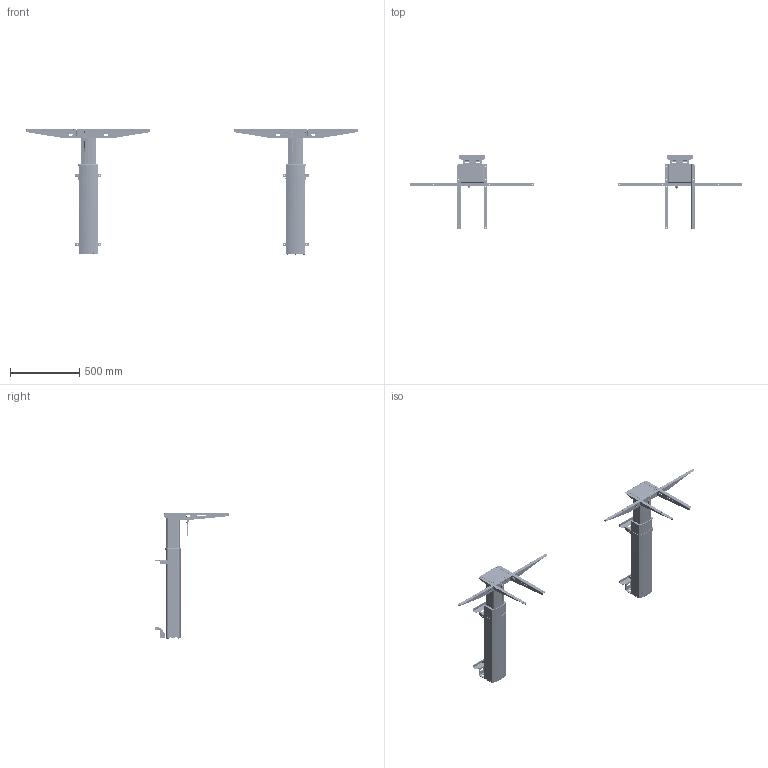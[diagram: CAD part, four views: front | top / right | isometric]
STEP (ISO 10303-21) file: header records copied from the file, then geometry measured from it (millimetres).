
FILE_DESCRIPTION (( 'STEP AP214' ), '1' );
FILE_NAME ('Tech-draw_501-23_XXW.STEP', '2025-06-04T07:43:40', ( '' ), ( '' ), 'SwSTEP 2.0', 'SolidWorks 2023', '' );
FILE_SCHEMA (( 'AUTOMOTIVE_DESIGN' ));
Length unit declared in the file: millimetre
Products named in the file (58): 320500; 311890; 343840; Pil1; 132030; 600360; Weld_21; 132020; 318460; 114950; 306980_black; 114960; 111360_shell view; 311630_shell view1; 318710; 311700_Shell view; 302180; 147730_shell view; 107860_silver; 321190; 312140; Tech-draw_501-23_XXW; 338070; Weld_15; 320530; 200218_02; 109860; 333410; 311670; 311900; 335900_Assembly; 320490; 343930; 311680; 313930; 111500_silver; Weld_26; 107880_Shell view; Weld_28_5x4; 313910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
Assembly tree (137 placements, depth 7):
  Tech-draw_501-23_XXW
    111500_silver  x2
      107870_silver
        107860_silver
          311670
          311680
          318460  x2
        317780
      111360_shell view
        107880_Shell view
          311690_Shell view
          311700_Shell view
          311630_shell view1
          600360  x2
          311620_Gert 130607
          Weld_26
          Weld_15  x4
          Weld_21  x40
          Weld_28
          Weld_28_5x4  x3
          318710
        132010_wo wires
          Pil1
          132030
            137210
              335900_Assembly  x3
            321190
            335900_Assembly  x3
          325430
          333400
          333410
          127910
            315360_Ingen kontaktarm
            333390
          132020
            338070
          343930
        147730_shell view
          350310_Wire, bend 1
      312140
      306980_black
      343840
      200218_02
    109860  x2
      313920
      313930
    313900  x2
    313910  x2
    302180  x2
    304650  x11
    114950  x2
      320490
      311900
      320530
      Weld_16
      Weld_18
    114960  x2
      320500
      311890
      320530
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Bounding box: 2400 x 539.12 x 906.5 mm (x, y, z)
Volume: 3892994.4 mm3; surface area: 3461967.8 mm2
Topology: 221 solids, 221 shells, 10394 faces, 27878 edges, 17956 vertices
Faces by surface type: plane 3933, cylinder 3805, bspline 2278, torus 326, cone 36, sphere 16
Full cylindrical faces by diameter (mm): 1.2 x12, 1.5 x202, 1.8 x12, 1.9 x6, 2.1 x4, 2.2 x2, 2.3 x2, 2.4 x2, 2.5 x12, 2.6 x10, 3 x2, 3.3 x28, 4 x22, 4.5 x20, 5 x28, 5.7 x2, 6 x148, 6.5 x22, 7.5 x10, 8 x2, 8.5 x4, 9.8 x2, 10 x8, 10.1 x2, 13 x2, 42 x2
Entity records: 114421 total; most frequent: CARTESIAN_POINT 39901, ORIENTED_EDGE 15812, DIRECTION 13610, EDGE_CURVE 7906, VERTEX_POINT 5195, AXIS2_PLACEMENT_3D 4641, LINE 4328, VECTOR 4328
